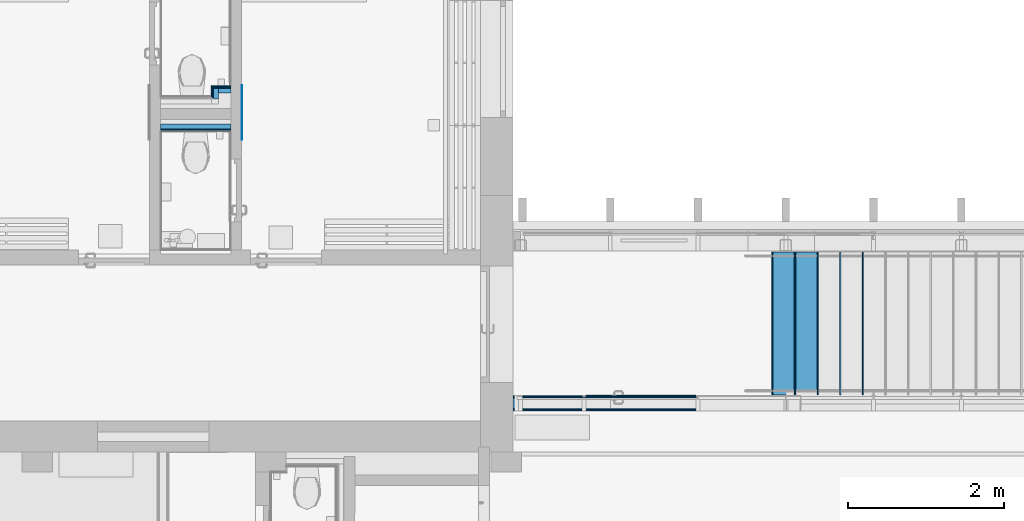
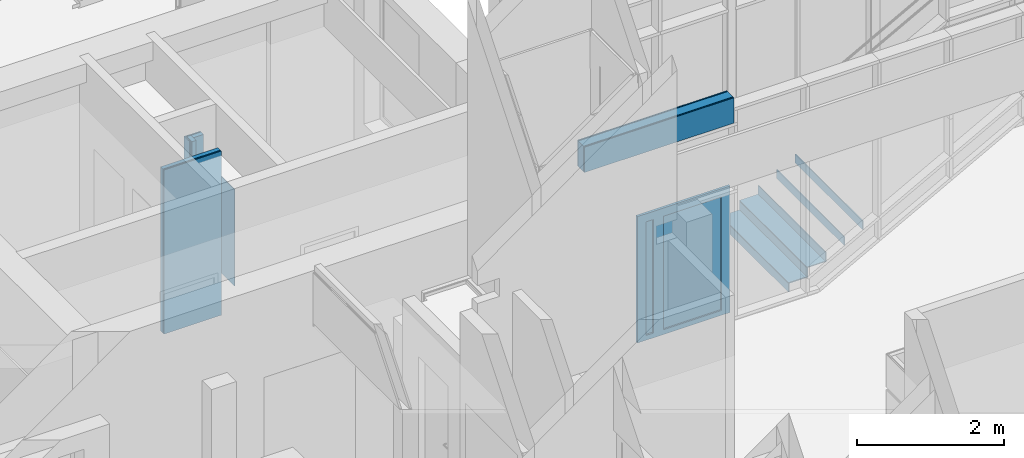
# One storey, part 188 of 301: 23 building element parts, 1 discrete accessory, 7 elements without a shape of their own.
"""IFC2X3 building model written with IfcOpenShell, lengths in millimetres."""

from ifc_helpers import new_model, entity, si_unit, converted_unit, derived_unit, money_unit, direction, frame, origin_with_axes, place, context, subcontext, project, spatial, faceted_brep, material, type_object, element, aggregate, save


model = new_model("IFC2X3")

# Units and contexts
model_context = context("Model", 3, precision=0.01, world=origin_with_axes(), true_north=direction((0.0, 1.0)))
body_context = subcontext(model_context, "Body", "Model", "MODEL_VIEW")
ifc_project = project(units=[si_unit("LENGTHUNIT", "METRE", prefix="MILLI"), si_unit("AREAUNIT", "SQUARE_METRE"), si_unit("VOLUMEUNIT", "CUBIC_METRE"), converted_unit("PLANEANGLEUNIT", "DEGREE", entity("IfcPlaneAngleMeasure", 0.0174532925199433), si_unit("PLANEANGLEUNIT", "RADIAN"), dimensions=[0, 0, 0, 0, 0, 0, 0]), money_unit("EUR"), converted_unit("TIMEUNIT", "Year", entity("IfcTimeMeasure", 31557600.0), si_unit("TIMEUNIT", "SECOND"), dimensions=[0, 0, 1, 0, 0, 0, 0]), si_unit("MASSUNIT", "GRAM", prefix="KILO"), si_unit("THERMODYNAMICTEMPERATUREUNIT", "DEGREE_CELSIUS"), si_unit("LUMINOUSINTENSITYUNIT", "LUMEN"), si_unit("ENERGYUNIT", "JOULE", prefix="MEGA"), derived_unit("THERMALCONDUCTANCEUNIT", [(si_unit("POWERUNIT", "WATT"), 1), (si_unit("LENGTHUNIT", "METRE"), -1), (si_unit("THERMODYNAMICTEMPERATUREUNIT", "KELVIN"), -1)]), derived_unit("SPECIFICHEATCAPACITYUNIT", [(si_unit("ENERGYUNIT", "JOULE"), 1), (si_unit("MASSUNIT", "GRAM", prefix="KILO"), -1), (si_unit("THERMODYNAMICTEMPERATUREUNIT", "KELVIN"), -1)]), derived_unit("MASSDENSITYUNIT", [(si_unit("MASSUNIT", "GRAM", prefix="KILO"), 1), (si_unit("VOLUMEUNIT", "CUBIC_METRE"), -1)])], contexts=[model_context])

# Site, building, storey
site_placement = place(None, frame((0.0, 0.0, 8650.0), z_axis=(0.0, 0.0, 1.0), x_axis=(1.0, 0.0, 0.0)))
site = spatial("IfcSite", under=ifc_project, at=site_placement, Name="43301:001:0844", CompositionType="ELEMENT")
building_placement = place(site_placement, origin_with_axes())
building = spatial("IfcBuilding", under=site, at=building_placement, Name="Kuressaare Ametikooli tuulikute mehaanikute õppekorpus", CompositionType="ELEMENT")
storey_placement = place(building_placement, origin_with_axes())
storey = spatial("IfcBuildingStorey", under=building, at=storey_placement, Name="1.korrus", CompositionType="ELEMENT", Elevation=0.0)

# Discrete accessory
ifc_material_1 = material(Name="GENEERILINE - SISEMINE VOODER")
discrete_accessory_type = type_object("IfcDiscreteAccessoryType", Name="GENEERILINE - SISEMINE VOODER 10")
discrete_accessory_placement = place(storey_placement, frame((100177.7073934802, 30488.53918858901, 500.0), z_axis=(0.0, 0.0, 1.0), x_axis=(-2.083127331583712e-06, -0.9999999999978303, 0.0)))
element("IfcDiscreteAccessory", 1, at=discrete_accessory_placement, inside=storey, type_object=discrete_accessory_type, material=ifc_material_1, Name="P3", context=body_context, shape_type="Brep", body=[
    faceted_brep([(0.0, 0.0, 0.0), (699.9999999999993, 0.0, 0.0), (700.0000000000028, -10.00000000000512, 0.0), (0.0, -10.00000000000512, 0.0), (0.0, 0.0, 1600.0), (699.9999999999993, 0.0, 1600.0), (700.0000000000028, -10.00000000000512, 1600.0), (0.0, -10.00000000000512, 1600.0)], [[[0, 1, 2, 3]], [[4, 5, 1, 0]], [[2, 1, 5, 6]], [[3, 2, 6, 7]], [[4, 0, 3, 7]], [[7, 6, 5, 4]]]),
])

# Wall, building element parts
wall_type_1 = type_object("IfcWallType", Name="SS-2.4 92", PredefinedType="NOTDEFINED")
wall_1_placement = place(storey_placement, frame((99779.70592214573, 30477.97406825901, 0.0), z_axis=(0.0, 0.0, 1.0), x_axis=(-4.516199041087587e-07, -0.9999999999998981, 0.0)))
wall_1 = element("IfcWall", 2, at=wall_1_placement, inside=storey, type_object=wall_type_1, Name="Sisesein")
ifc_material_2 = material(Name="Air Space - Frame")
building_element_part_1_placement = place(wall_1_placement, origin_with_axes())
building_element_part_1 = element("IfcBuildingElementPart", 3, at=building_element_part_1_placement, material=ifc_material_2, Name="Air Space - Frame", context=body_context, shape_type="Brep", body=[
    faceted_brep([(25.99998825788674, 26.00000000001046, 2700.0), (166.2595207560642, 25.99999999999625, 2700.0), (166.3343319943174, 91.99999999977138, 2700.0), (25.99995845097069, 91.99999999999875, 2700.0), (166.2595207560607, 25.99999999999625, 0.0), (25.99998825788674, 26.00000000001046, 0.0), (166.3343319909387, 91.99999701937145, 0.0), (25.99995845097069, 91.99999999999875, 0.0)], [[[0, 1, 2, 3]], [[4, 1, 0, 5]], [[6, 2, 1, 4]], [[3, 2, 6, 7]], [[5, 0, 3, 7]], [[7, 6, 4, 5]]]),
])
ifc_material_3 = material(Name="Plywood")
building_element_part_2_placement = place(wall_1_placement, origin_with_axes())
building_element_part_2 = element("IfcBuildingElementPart", 4, at=building_element_part_2_placement, material=ifc_material_3, Name="Plywood", context=body_context, shape_type="Brep", body=[
    faceted_brep([(12.99999412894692, 13.00000000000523, 2700.0), (153.2447768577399, 13.00000000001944, 2700.0), (153.2595124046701, 26.00000000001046, 2700.0), (12.99998825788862, 26.00000000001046, 2700.0), (153.2447768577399, 13.00000000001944, 0.0), (12.99999412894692, 13.00000000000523, 0.0), (153.2595124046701, 26.00000000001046, 0.0), (12.99998825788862, 26.00000000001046, 0.0)], [[[0, 1, 2, 3]], [[4, 1, 0, 5]], [[6, 2, 1, 4]], [[3, 2, 6, 7]], [[5, 0, 3, 7]], [[7, 6, 4, 5]]]),
])
ifc_material_4 = material(Name="Plaster - Gypsum")
building_element_part_3_placement = place(wall_1_placement, origin_with_axes())
building_element_part_3 = element("IfcBuildingElementPart", 5, at=building_element_part_3_placement, material=ifc_material_4, Name="Plaster - Gypsum", context=body_context, shape_type="Brep", body=[
    faceted_brep([(0.01473554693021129, 13.00000000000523, 2600.0), (0.01473554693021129, 13.00000000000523, 2650.0), (-5.871058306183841e-06, 13.00000000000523, 2650.0), (-5.871058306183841e-06, 13.00000000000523, 2700.0), (140.2447685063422, 13.00000000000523, 2700.0), (140.2447685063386, 13.00000000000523, 0.0), (-5.871058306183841e-06, 13.00000000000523, 0.0), (-5.871058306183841e-06, 13.00000000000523, 2600.0), (0.0001801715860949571, 0.158951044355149, 2600.0), (0.0001801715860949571, 0.158951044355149, 2650.0), (0.0, 0.0, 2650.0), (0.0, 0.0, 2700.0), (140.2300329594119, 0.0, 2700.0), (140.2300329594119, 0.0, 2650.0), (140.2300329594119, 0.0, 2600.0), (140.2300329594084, 0.0, 0.0), (0.0, 0.0, 0.0), (0.0, 0.0, 2600.0)], [[[0, 1, 2, 3, 4, 5, 6, 7]], [[1, 0, 8, 9]], [[9, 2, 1]], [[9, 10, 11, 3, 2]], [[11, 12, 4, 3]], [[13, 14, 15, 5, 4, 12]], [[6, 5, 15, 16]], [[8, 7, 6, 16, 17]], [[0, 7, 8]], [[14, 13, 9, 8]], [[10, 9, 13]], [[10, 13, 12, 11]], [[14, 17, 16, 15]], [[8, 17, 14]]]),
])
aggregate(wall_1, [building_element_part_1, building_element_part_2, building_element_part_3])

wall_2_placement = place(storey_placement, frame((100027.7066643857, 30477.97406825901, 0.0), z_axis=(0.0, 0.0, 1.0), x_axis=(-1.0, 0.0, 0.0)))
wall_2 = element("IfcWall", 6, at=wall_2_placement, inside=storey, type_object=wall_type_1, Name="Sisesein")
building_element_part_4_placement = place(wall_2_placement, origin_with_axes())
building_element_part_4 = element("IfcBuildingElementPart", 7, at=building_element_part_4_placement, material=ifc_material_2, Name="Air Space - Frame", context=body_context, shape_type="Brep", body=[
    faceted_brep([(156.000783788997, 91.99999999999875, 2700.0), (0.0, 91.99999999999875, 2700.0), (0.0, 25.9999999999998, 2700.0), (156.0007539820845, 25.9999999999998, 2700.0), (0.0, 91.99999999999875, 0.0), (156.000783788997, 91.99999999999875, 0.0), (0.0, 25.9999999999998, 0.0), (156.0007539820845, 25.9999999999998, 0.0)], [[[0, 1, 2, 3]], [[4, 1, 0, 5]], [[6, 2, 1, 4]], [[3, 2, 6, 7]], [[5, 0, 3, 7]], [[7, 6, 4, 5]]]),
])
building_element_part_5_placement = place(wall_2_placement, origin_with_axes())
building_element_part_5 = element("IfcBuildingElementPart", 8, at=building_element_part_5_placement, material=ifc_material_3, Name="Plywood", context=body_context, shape_type="Brep", body=[
    faceted_brep([(222.000753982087, 25.9999999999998, 2700.0), (0.0, 25.9999999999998, 2700.0), (0.0, 13.00000000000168, 2700.0), (222.0007481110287, 13.00000000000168, 2700.0), (0.0, 25.9999999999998, 0.0), (222.000753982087, 25.9999999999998, 0.0), (0.0, 13.00000000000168, 0.0), (222.0007481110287, 13.00000000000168, 0.0)], [[[0, 1, 2, 3]], [[4, 1, 0, 5]], [[6, 2, 1, 4]], [[3, 2, 6, 7]], [[5, 0, 3, 7]], [[7, 6, 4, 5]]]),
])
building_element_part_6_placement = place(wall_2_placement, origin_with_axes())
building_element_part_6 = element("IfcBuildingElementPart", 9, at=building_element_part_6_placement, material=ifc_material_4, Name="Plaster - Gypsum", context=body_context, shape_type="Brep", body=[
    faceted_brep([(0.0, 0.2812217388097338, 2600.0), (0.0, 0.2812217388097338, 2650.0), (0.0, 0.0, 2650.0), (0.0, 0.0, 2700.0), (0.0, 13.00000000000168, 2700.0), (0.0, 13.00000000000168, 0.0), (0.0, 0.0, 0.0), (0.0, 0.0, 2600.0), (235.000742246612, 0.01474141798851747, 2600.0), (235.000742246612, 0.01474141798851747, 2650.0), (235.0007422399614, 0.0, 2650.0), (235.0007422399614, 0.0, 2700.0), (235.0007481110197, 13.00000000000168, 2700.0), (235.0007481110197, 13.00000000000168, 0.0), (235.0007422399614, 0.0, 0.0), (235.0007422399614, 0.0, 2600.0)], [[[0, 1, 2, 3, 4, 5, 6, 7]], [[1, 0, 8, 9]], [[10, 2, 1, 9]], [[2, 10, 11, 3]], [[12, 4, 3, 11]], [[5, 4, 12, 13]], [[14, 6, 5, 13]], [[15, 7, 6, 14]], [[0, 7, 15, 8]], [[8, 15, 14, 13, 12, 11, 10, 9]]]),
])
aggregate(wall_2, [building_element_part_4, building_element_part_5, building_element_part_6])

# Curtain wall, door, building element parts
curtain_wall_type = type_object("IfcCurtainWallType", Name="Curtain Wall Type", PredefinedType="NOTDEFINED")
curtain_wall_placement = place(storey_placement, frame((105155.4360221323, 26479.57374875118, 34.99996632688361), z_axis=(0.0, 0.0, 1.0), x_axis=(1.0, 0.0, 0.0)))
curtain_wall = element("IfcCurtainWall", 10, at=curtain_wall_placement, inside=storey, type_object=curtain_wall_type, Name="SKF-1.1,EI60")
door_style = type_object("IfcDoorStyle", Name="330 x 2095 x 40", ConstructionType="NOTDEFINED", OperationType="DOUBLE_DOOR_SINGLE_SWING", ParameterTakesPrecedence=False, Sizeable=False)
door_placement = place(curtain_wall_placement, frame((0.0, 0.0, 1050.189654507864), z_axis=(0.0, 0.0, 1.0), x_axis=(-1.0, 0.0, 0.0)))
door = element("IfcDoor", 11, at=door_placement, type_object=door_style, Name="AU10+3,EI30", OverallHeight=2075.38, OverallWidth=1410.0)
aggregate(curtain_wall, [door])
ifc_material_5 = material(Name="Klaas")
building_element_part_7_placement = place(door_placement, origin_with_axes())
building_element_part_7 = element("IfcBuildingElementPart", 12, at=building_element_part_7_placement, material=ifc_material_5, Name="Klaas", context=body_context, shape_type="Brep", body=[
    faceted_brep([(458.3333206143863, -19.99999999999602, -970.1896545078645), (343.3333206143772, -19.99999999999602, -970.1896545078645), (343.3333206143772, -3.999999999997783, -970.1896545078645), (458.3333206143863, -3.999999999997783, -970.1896545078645), (458.3333206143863, -19.99999999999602, 910.1896547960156), (343.3333206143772, -19.99999999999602, 910.1896547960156), (343.3333206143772, -3.999999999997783, 910.1896547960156), (458.3333206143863, -3.999999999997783, 910.1896547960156)], [[[0, 1, 2, 3]], [[0, 4, 5, 1]], [[1, 5, 6, 2]], [[3, 2, 6, 7]], [[4, 0, 3, 7]], [[5, 4, 7, 6]]]),
    faceted_brep([(183.3333206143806, -19.99999999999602, -970.1896545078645), (-721.666663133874, -19.99999999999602, -970.1896545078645), (-721.666663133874, -3.999999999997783, -970.1896545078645), (183.3333206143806, -3.999999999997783, -970.1896545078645), (183.3333206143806, -19.99999999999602, 910.1896547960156), (-721.666663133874, -19.99999999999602, 910.1896547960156), (-721.666663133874, -3.999999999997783, 910.1896547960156), (183.3333206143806, -3.999999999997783, 910.1896547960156)], [[[0, 1, 2, 3]], [[0, 4, 5, 1]], [[1, 5, 6, 2]], [[3, 2, 6, 7]], [[4, 0, 3, 7]], [[5, 4, 7, 6]]]),
])
ifc_material_6 = material(Name="Aluminium")
building_element_part_8_placement = place(door_placement, origin_with_axes())
building_element_part_8 = element("IfcBuildingElementPart", 13, at=building_element_part_8_placement, material=ifc_material_6, Name="Aluminium", context=body_context, shape_type="Brep", body=[
    faceted_brep([(-836.6666631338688, -29.99999999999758, -1050.189654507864), (-836.6666631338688, -34.99999999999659, -1050.189654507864), (-836.6666631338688, -34.99999999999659, 1025.189654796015), (-836.6666631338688, -29.99999999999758, 1025.189654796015), (-791.6666631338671, -29.99999999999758, -1050.189654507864), (-791.6666631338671, -34.99999999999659, -1050.189654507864), (-791.6666631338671, -34.99999999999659, 980.1896547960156), (-791.6666631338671, -29.99999999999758, 980.1896547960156)], [[[0, 1, 2, 3]], [[4, 5, 1, 0]], [[1, 5, 6, 2]], [[3, 2, 6, 7]], [[0, 3, 7, 4]], [[7, 6, 5, 4]]]),
    faceted_brep([(573.3333206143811, -29.99999999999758, 1025.189654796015), (573.3333206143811, -34.99999999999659, 1025.189654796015), (528.3333206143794, -34.99999999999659, 980.1896547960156), (528.3333206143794, -29.99999999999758, 980.1896547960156), (-836.6666631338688, -29.99999999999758, 1025.189654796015), (-836.6666631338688, -34.99999999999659, 1025.189654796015), (-791.6666631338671, -34.99999999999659, 980.1896547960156), (-791.6666631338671, -29.99999999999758, 980.1896547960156)], [[[0, 1, 2, 3]], [[4, 5, 1, 0]], [[1, 5, 6, 2]], [[3, 2, 6, 7]], [[0, 3, 7, 4]], [[7, 6, 5, 4]]]),
    faceted_brep([(573.3333206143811, -29.99999999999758, -1050.189654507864), (573.3333206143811, -34.99999999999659, -1050.189654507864), (528.3333206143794, -34.99999999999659, -1050.189654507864), (528.3333206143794, -29.99999999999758, -1050.189654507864), (573.3333206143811, -29.99999999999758, 1025.189654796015), (573.3333206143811, -34.99999999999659, 1025.189654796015), (528.3333206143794, -34.99999999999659, 980.1896547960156), (528.3333206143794, -29.99999999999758, 980.1896547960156)], [[[0, 1, 2, 3]], [[4, 5, 1, 0]], [[1, 5, 6, 2]], [[3, 2, 6, 7]], [[0, 3, 7, 4]], [[7, 6, 5, 4]]]),
    faceted_brep([(-836.6666631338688, 20.00000000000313, -1050.189654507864), (-836.6666631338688, -29.99999999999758, -1050.189654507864), (-836.6666631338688, -29.99999999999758, 1025.189654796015), (-836.6666631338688, 20.00000000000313, 1025.189654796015), (-801.6666631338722, 20.00000000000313, -1050.189654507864), (-801.6666631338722, -29.99999999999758, -1050.189654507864), (-801.6666631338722, -29.99999999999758, 990.1896547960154), (-801.6666631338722, 20.00000000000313, 990.1896547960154)], [[[0, 1, 2, 3]], [[4, 5, 1, 0]], [[1, 5, 6, 2]], [[3, 2, 6, 7]], [[0, 3, 7, 4]], [[7, 6, 5, 4]]]),
    faceted_brep([(573.3333206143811, 20.00000000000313, 1025.189654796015), (573.3333206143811, -29.99999999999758, 1025.189654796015), (538.3333206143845, -29.99999999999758, 990.1896547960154), (538.3333206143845, 20.00000000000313, 990.1896547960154), (-836.6666631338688, 20.00000000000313, 1025.189654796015), (-836.6666631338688, -29.99999999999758, 1025.189654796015), (-801.6666631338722, -29.99999999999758, 990.1896547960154), (-801.6666631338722, 20.00000000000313, 990.1896547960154)], [[[0, 1, 2, 3]], [[4, 5, 1, 0]], [[1, 5, 6, 2]], [[3, 2, 6, 7]], [[0, 3, 7, 4]], [[7, 6, 5, 4]]]),
    faceted_brep([(573.3333206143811, 20.00000000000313, -1050.189654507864), (573.3333206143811, -29.99999999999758, -1050.189654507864), (538.3333206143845, -29.99999999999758, -1050.189654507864), (538.3333206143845, 20.00000000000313, -1050.189654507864), (573.3333206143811, 20.00000000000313, 1025.189654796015), (573.3333206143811, -29.99999999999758, 1025.189654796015), (538.3333206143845, -29.99999999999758, 990.1896547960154), (538.3333206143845, 20.00000000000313, 990.1896547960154)], [[[0, 1, 2, 3]], [[4, 5, 1, 0]], [[1, 5, 6, 2]], [[3, 2, 6, 7]], [[0, 3, 7, 4]], [[7, 6, 5, 4]]]),
    faceted_brep([(-856.6666629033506, 20.00000000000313, -1050.189654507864), (-856.6666629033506, -19.99999999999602, -1050.189654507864), (-856.6666629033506, -19.99999999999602, 1045.189654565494), (-856.6666629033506, 20.00000000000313, 1045.189654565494), (-836.6666631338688, 20.00000000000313, -1050.189654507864), (-836.6666631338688, -19.99999999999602, -1050.189654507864), (-836.6666631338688, -19.99999999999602, 1025.189654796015), (-836.6666631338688, 20.00000000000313, 1025.189654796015)], [[[0, 1, 2, 3]], [[4, 5, 1, 0]], [[1, 5, 6, 2]], [[3, 2, 6, 7]], [[0, 3, 7, 4]], [[7, 6, 5, 4]]]),
    faceted_brep([(-856.6666629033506, 20.00000000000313, 1045.189654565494), (-856.6666629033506, -19.99999999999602, 1045.189654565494), (593.3333203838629, -19.99999999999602, 1045.189654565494), (593.3333203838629, 20.00000000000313, 1045.189654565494), (-836.6666631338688, 20.00000000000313, 1025.189654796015), (-836.6666631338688, -19.99999999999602, 1025.189654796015), (573.3333206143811, -19.99999999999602, 1025.189654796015), (573.3333206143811, 20.00000000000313, 1025.189654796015)], [[[0, 1, 2, 3]], [[4, 5, 1, 0]], [[1, 5, 6, 2]], [[3, 2, 6, 7]], [[0, 3, 7, 4]], [[7, 6, 5, 4]]]),
    faceted_brep([(593.3333203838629, 20.00000000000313, 1045.189654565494), (593.3333203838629, -19.99999999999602, 1045.189654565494), (593.3333203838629, -19.99999999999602, -1050.189654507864), (593.3333203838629, 20.00000000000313, -1050.189654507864), (573.3333206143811, 20.00000000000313, 1025.189654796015), (573.3333206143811, -19.99999999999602, 1025.189654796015), (573.3333206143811, -19.99999999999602, -1050.189654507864), (573.3333206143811, 20.00000000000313, -1050.189654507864)], [[[0, 1, 2, 3]], [[4, 5, 1, 0]], [[1, 5, 6, 2]], [[3, 2, 6, 7]], [[0, 3, 7, 4]], [[7, 6, 5, 4]]]),
    faceted_brep([(458.3333206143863, -29.99999999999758, -970.1896545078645), (458.3333206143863, -29.99999999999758, 910.1896547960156), (458.3333206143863, 20.00000000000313, 910.1896547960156), (458.3333206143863, 20.00000000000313, -970.1896545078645), (538.3333206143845, -29.99999999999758, -1050.189654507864), (538.3333206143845, -29.99999999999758, 990.1896547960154), (538.3333206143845, 20.00000000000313, 990.1896547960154), (538.3333206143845, 20.00000000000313, -1050.189654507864)], [[[0, 1, 2, 3]], [[0, 4, 5, 1]], [[1, 5, 6, 2]], [[3, 2, 6, 7]], [[4, 0, 3, 7]], [[5, 4, 7, 6]]]),
    faceted_brep([(263.3333206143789, -29.99999999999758, -1050.189654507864), (263.3333206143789, -29.99999999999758, 990.1896547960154), (263.3333206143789, 20.00000000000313, 990.1896547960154), (263.3333206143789, 20.00000000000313, -1050.189654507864), (343.3333206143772, -29.99999999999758, -970.1896545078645), (343.3333206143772, -29.99999999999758, 910.1896547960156), (343.3333206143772, 20.00000000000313, 910.1896547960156), (343.3333206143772, 20.00000000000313, -970.1896545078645)], [[[0, 1, 2, 3]], [[0, 4, 5, 1]], [[1, 5, 6, 2]], [[3, 2, 6, 7]], [[4, 0, 3, 7]], [[5, 4, 7, 6]]]),
    faceted_brep([(263.3333206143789, -29.99999999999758, -1050.189654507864), (343.3333206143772, -29.99999999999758, -970.1896545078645), (343.3333206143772, 20.00000000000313, -970.1896545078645), (263.3333206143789, 20.00000000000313, -1050.189654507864), (538.3333206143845, -29.99999999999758, -1050.189654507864), (458.3333206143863, -29.99999999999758, -970.1896545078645), (458.3333206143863, 20.00000000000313, -970.1896545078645), (538.3333206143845, 20.00000000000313, -1050.189654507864)], [[[0, 1, 2, 3]], [[0, 4, 5, 1]], [[1, 5, 6, 2]], [[3, 2, 6, 7]], [[4, 0, 3, 7]], [[5, 4, 7, 6]]]),
    faceted_brep([(538.3333206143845, -29.99999999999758, 990.1896547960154), (458.3333206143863, -29.99999999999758, 910.1896547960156), (458.3333206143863, 20.00000000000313, 910.1896547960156), (538.3333206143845, 20.00000000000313, 990.1896547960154), (263.3333206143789, -29.99999999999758, 990.1896547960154), (343.3333206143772, -29.99999999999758, 910.1896547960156), (343.3333206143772, 20.00000000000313, 910.1896547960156), (263.3333206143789, 20.00000000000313, 990.1896547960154)], [[[0, 1, 2, 3]], [[0, 4, 5, 1]], [[1, 5, 6, 2]], [[3, 2, 6, 7]], [[4, 0, 3, 7]], [[5, 4, 7, 6]]]),
    faceted_brep([(183.3333206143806, -29.99999999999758, -970.1896545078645), (183.3333206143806, -29.99999999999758, 910.1896547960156), (183.3333206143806, 20.00000000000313, 910.1896547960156), (183.3333206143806, 20.00000000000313, -970.1896545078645), (263.3333206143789, -29.99999999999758, -1050.189654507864), (263.3333206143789, -29.99999999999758, 990.1896547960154), (263.3333206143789, 20.00000000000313, 990.1896547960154), (263.3333206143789, 20.00000000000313, -1050.189654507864)], [[[0, 1, 2, 3]], [[0, 4, 5, 1]], [[1, 5, 6, 2]], [[3, 2, 6, 7]], [[4, 0, 3, 7]], [[5, 4, 7, 6]]]),
    faceted_brep([(-801.6666631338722, -29.99999999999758, -1050.189654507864), (-801.6666631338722, -29.99999999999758, 990.1896547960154), (-801.6666631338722, 20.00000000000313, 990.1896547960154), (-801.6666631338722, 20.00000000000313, -1050.189654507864), (-721.666663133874, -29.99999999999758, -970.1896545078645), (-721.666663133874, -29.99999999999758, 910.1896547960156), (-721.666663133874, 20.00000000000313, 910.1896547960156), (-721.666663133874, 20.00000000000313, -970.1896545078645)], [[[0, 1, 2, 3]], [[0, 4, 5, 1]], [[1, 5, 6, 2]], [[3, 2, 6, 7]], [[4, 0, 3, 7]], [[5, 4, 7, 6]]]),
    faceted_brep([(-801.6666631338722, -29.99999999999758, -1050.189654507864), (-721.666663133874, -29.99999999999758, -970.1896545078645), (-721.666663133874, 20.00000000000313, -970.1896545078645), (-801.6666631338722, 20.00000000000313, -1050.189654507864), (263.3333206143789, -29.99999999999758, -1050.189654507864), (183.3333206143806, -29.99999999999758, -970.1896545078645), (183.3333206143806, 20.00000000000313, -970.1896545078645), (263.3333206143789, 20.00000000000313, -1050.189654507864)], [[[0, 1, 2, 3]], [[0, 4, 5, 1]], [[1, 5, 6, 2]], [[3, 2, 6, 7]], [[4, 0, 3, 7]], [[5, 4, 7, 6]]]),
    faceted_brep([(263.3333206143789, -29.99999999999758, 990.1896547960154), (183.3333206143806, -29.99999999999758, 910.1896547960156), (183.3333206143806, 20.00000000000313, 910.1896547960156), (263.3333206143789, 20.00000000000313, 990.1896547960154), (-801.6666631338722, -29.99999999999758, 990.1896547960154), (-721.666663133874, -29.99999999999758, 910.1896547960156), (-721.666663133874, 20.00000000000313, 910.1896547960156), (-801.6666631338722, 20.00000000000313, 990.1896547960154)], [[[0, 1, 2, 3]], [[0, 4, 5, 1]], [[1, 5, 6, 2]], [[3, 2, 6, 7]], [[4, 0, 3, 7]], [[5, 4, 7, 6]]]),
])
aggregate(door, [building_element_part_7, building_element_part_8])

# Wall, building element parts
wall_3_placement = place(storey_placement, frame((100027.7059182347, 29898.48198919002, 0.0), z_axis=(0.0, 0.0, 1.0), x_axis=(-0.99999999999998, -1.999962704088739e-07, 0.0)))
wall_3 = element("IfcWall", 14, at=wall_3_placement, inside=storey, type_object=wall_type_1, Name="Sisesein")
building_element_part_9_placement = place(wall_3_placement, origin_with_axes())
building_element_part_9 = element("IfcBuildingElementPart", 15, at=building_element_part_9_placement, material=ifc_material_4, Name="Plaster - Gypsum", context=body_context, shape_type="Brep", body=[
    faceted_brep([(899.9999999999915, -13.00000000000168, 2719.999999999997), (899.9999999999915, 0.0, 2719.999999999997), (-0.0007461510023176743, 0.0, 2719.999999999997), (-0.0007487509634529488, -13.00000000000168, 2719.999999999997), (899.9999999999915, -13.00000000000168, 0.0), (899.9999999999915, 0.0, 0.0), (-0.0007461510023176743, 0.0, 0.0), (-0.0007487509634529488, -13.00000000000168, 0.0)], [[[0, 1, 2, 3]], [[0, 4, 5, 1]], [[1, 5, 6, 2]], [[3, 2, 6, 7]], [[4, 0, 3, 7]], [[5, 4, 7, 6]]]),
])
building_element_part_10_placement = place(wall_3_placement, origin_with_axes())
building_element_part_10 = element("IfcBuildingElementPart", 16, at=building_element_part_10_placement, material=ifc_material_2, Name="Air Space - Frame", context=body_context, shape_type="Brep", body=[
    faceted_brep([(899.9999999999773, -91.99999999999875, 2719.999999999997), (899.9999999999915, -25.9999999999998, 2719.999999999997), (-0.0007513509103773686, -26.00000000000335, 2719.999999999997), (-0.0007645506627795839, -91.99999999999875, 2719.999999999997), (899.9999999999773, -91.99999999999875, 0.0), (899.9999999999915, -25.9999999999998, 0.0), (-0.0007513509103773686, -26.00000000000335, 0.0), (-0.0007645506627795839, -91.99999999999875, 0.0)], [[[0, 1, 2, 3]], [[0, 4, 5, 1]], [[1, 5, 6, 2]], [[3, 2, 6, 7]], [[4, 0, 3, 7]], [[5, 4, 7, 6]]]),
])
building_element_part_11_placement = place(wall_3_placement, origin_with_axes())
building_element_part_11 = element("IfcBuildingElementPart", 17, at=building_element_part_11_placement, material=ifc_material_3, Name="Plywood", context=body_context, shape_type="Brep", body=[
    faceted_brep([(899.9999999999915, -25.9999999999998, 2719.999999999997), (899.9999999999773, -13.00000000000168, 2719.999999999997), (-0.0007487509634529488, -13.00000000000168, 2719.999999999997), (-0.0007513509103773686, -26.00000000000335, 2719.999999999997), (899.9999999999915, -25.9999999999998, 0.0), (899.9999999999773, -13.00000000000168, 0.0), (-0.0007487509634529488, -13.00000000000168, 0.0), (-0.0007513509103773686, -26.00000000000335, 0.0)], [[[0, 1, 2, 3]], [[0, 4, 5, 1]], [[1, 5, 6, 2]], [[3, 2, 6, 7]], [[4, 0, 3, 7]], [[5, 4, 7, 6]]]),
])
aggregate(wall_3, [building_element_part_9, building_element_part_10, building_element_part_11])

# Stair, building element parts
stair_placement = place(storey_placement, frame((106962.1026822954, 28349.57374875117, 5.294881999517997e-05), z_axis=(0.0, 0.0, 1.0), x_axis=(1.0, 0.0, 0.0)))
stair = element("IfcStair", 18, at=stair_placement, inside=storey, Name="Trepp1", ShapeType="NOTDEFINED")
ifc_material_7 = material(Name="GENEERILINE - SISEMINE VIIMISTLUS")
building_element_part_12_placement = place(stair_placement, origin_with_axes())
building_element_part_12 = element("IfcBuildingElementPart", 19, at=building_element_part_12_placement, material=ifc_material_7, Name="GENEERILINE - SISEMINE VIIMISTLUS", context=body_context, shape_type="Brep", body=[
    faceted_brep([(0.0, -1829.999999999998, 142.6923076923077), (15.00000000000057, -1829.999999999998, 142.6923076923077), (15.00000000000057, 0.0, 142.6923076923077), (0.0, 0.0, 142.6923076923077), (0.0, -1829.999999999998, 0.0), (15.00000000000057, -1829.999999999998, 0.0), (15.00000000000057, 0.0, 0.0), (0.0, 0.0, 0.0)], [[[0, 1, 2, 3]], [[0, 4, 5, 1]], [[1, 5, 6, 2]], [[3, 2, 6, 7]], [[4, 0, 3, 7]], [[5, 4, 7, 6]]]),
])
building_element_part_13_placement = place(stair_placement, origin_with_axes())
building_element_part_13 = element("IfcBuildingElementPart", 20, at=building_element_part_13_placement, material=ifc_material_7, Name="GENEERILINE - SISEMINE VIIMISTLUS", context=body_context, shape_type="Brep", body=[
    faceted_brep([(290.0000000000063, -1829.999999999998, 300.3846153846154), (305.0000000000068, -1829.999999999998, 300.3846153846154), (305.0000000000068, 0.0, 300.3846153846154), (290.0000000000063, 0.0, 300.3846153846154), (290.0000000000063, -1829.999999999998, 157.6923076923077), (305.0000000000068, -1829.999999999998, 157.6923076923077), (305.0000000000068, 0.0, 157.6923076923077), (290.0000000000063, 0.0, 157.6923076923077)], [[[0, 1, 2, 3]], [[0, 4, 5, 1]], [[1, 5, 6, 2]], [[3, 2, 6, 7]], [[4, 0, 3, 7]], [[5, 4, 7, 6]]]),
])
building_element_part_14_placement = place(stair_placement, origin_with_axes())
building_element_part_14 = element("IfcBuildingElementPart", 21, at=building_element_part_14_placement, material=ifc_material_7, Name="GENEERILINE - SISEMINE VIIMISTLUS", context=body_context, shape_type="Brep", body=[
    faceted_brep([(579.9999999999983, -1829.999999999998, 458.076923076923), (594.9999999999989, -1829.999999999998, 458.076923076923), (594.9999999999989, 0.0, 458.076923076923), (579.9999999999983, 0.0, 458.076923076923), (579.9999999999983, -1829.999999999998, 315.3846153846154), (594.9999999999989, -1829.999999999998, 315.3846153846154), (594.9999999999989, 0.0, 315.3846153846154), (579.9999999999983, 0.0, 315.3846153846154)], [[[0, 1, 2, 3]], [[0, 4, 5, 1]], [[1, 5, 6, 2]], [[3, 2, 6, 7]], [[4, 0, 3, 7]], [[5, 4, 7, 6]]]),
])
building_element_part_15_placement = place(stair_placement, origin_with_axes())
building_element_part_15 = element("IfcBuildingElementPart", 22, at=building_element_part_15_placement, material=ifc_material_7, Name="GENEERILINE - SISEMINE VIIMISTLUS", context=body_context, shape_type="Brep", body=[
    faceted_brep([(870.0000000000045, -1829.999999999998, 615.7692307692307), (885.0000000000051, -1829.999999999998, 615.7692307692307), (885.0000000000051, 0.0, 615.7692307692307), (870.0000000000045, 0.0, 615.7692307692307), (870.0000000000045, -1829.999999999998, 473.076923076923), (885.0000000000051, -1829.999999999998, 473.076923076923), (885.0000000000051, 0.0, 473.076923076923), (870.0000000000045, 0.0, 473.076923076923)], [[[0, 1, 2, 3]], [[0, 4, 5, 1]], [[1, 5, 6, 2]], [[3, 2, 6, 7]], [[4, 0, 3, 7]], [[5, 4, 7, 6]]]),
])
building_element_part_16_placement = place(stair_placement, origin_with_axes())
building_element_part_16 = element("IfcBuildingElementPart", 23, at=building_element_part_16_placement, material=ifc_material_7, Name="GENEERILINE - SISEMINE VIIMISTLUS", context=body_context, shape_type="Brep", body=[
    faceted_brep([(1159.999999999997, -1829.999999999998, 773.4615384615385), (1174.999999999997, -1829.999999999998, 773.4615384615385), (1174.999999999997, 0.0, 773.4615384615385), (1159.999999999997, 0.0, 773.4615384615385), (1159.999999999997, -1829.999999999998, 630.7692307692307), (1174.999999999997, -1829.999999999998, 630.7692307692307), (1174.999999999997, 0.0, 630.7692307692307), (1159.999999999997, 0.0, 630.7692307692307)], [[[0, 1, 2, 3]], [[0, 4, 5, 1]], [[1, 5, 6, 2]], [[3, 2, 6, 7]], [[4, 0, 3, 7]], [[5, 4, 7, 6]]]),
])
building_element_part_17_placement = place(stair_placement, origin_with_axes())
building_element_part_17 = element("IfcBuildingElementPart", 24, at=building_element_part_17_placement, material=ifc_material_7, Name="GENEERILINE - SISEMINE VIIMISTLUS", context=body_context, shape_type="Brep", body=[
    faceted_brep([(0.0, 0.0, 142.6923076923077), (0.0, -1829.999999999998, 142.6923076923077), (0.0, -1829.999999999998, 157.6923076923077), (0.0, 0.0, 157.6923076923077), (305.0000000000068, 0.0, 142.6923076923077), (305.0000000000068, -1829.999999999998, 142.6923076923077), (305.0000000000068, -1829.999999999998, 157.6923076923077), (305.0000000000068, 0.0, 157.6923076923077)], [[[0, 1, 2, 3]], [[0, 4, 5, 1]], [[1, 5, 6, 2]], [[3, 2, 6, 7]], [[4, 0, 3, 7]], [[5, 4, 7, 6]]]),
])
building_element_part_18_placement = place(stair_placement, origin_with_axes())
building_element_part_18 = element("IfcBuildingElementPart", 25, at=building_element_part_18_placement, material=ifc_material_7, Name="GENEERILINE - SISEMINE VIIMISTLUS", context=body_context, shape_type="Brep", body=[
    faceted_brep([(290.0000000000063, 0.0, 300.3846153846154), (290.0000000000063, -1829.999999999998, 300.3846153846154), (290.0000000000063, -1829.999999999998, 315.3846153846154), (290.0000000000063, 0.0, 315.3846153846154), (595.0000000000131, 0.0, 300.3846153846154), (595.0000000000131, -1829.999999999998, 300.3846153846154), (595.0000000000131, -1829.999999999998, 315.3846153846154), (595.0000000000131, 0.0, 315.3846153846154)], [[[0, 1, 2, 3]], [[0, 4, 5, 1]], [[1, 5, 6, 2]], [[3, 2, 6, 7]], [[4, 0, 3, 7]], [[5, 4, 7, 6]]]),
])
aggregate(stair, [building_element_part_12, building_element_part_13, building_element_part_14, building_element_part_15, building_element_part_16, building_element_part_17, building_element_part_18])

# Wall, building element parts
wall_type_2 = type_object("IfcWallType", Name="SS-2.1.1 197", PredefinedType="NOTDEFINED")
wall_4_placement = place(storey_placement, frame((105992.1026822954, 26509.57374875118, 3269.999912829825), z_axis=(0.0, 0.0, 1.0), x_axis=(-1.0, 0.0, 0.0)))
wall_4 = element("IfcWall", 26, at=wall_4_placement, inside=storey, type_object=wall_type_2, Name="Sisesein")
ifc_material_8 = material(Name="Kipsplaat")
building_element_part_19_placement = place(wall_4_placement, origin_with_axes())
building_element_part_19 = element("IfcBuildingElementPart", 27, at=building_element_part_19_placement, material=ifc_material_8, Name="Kipsplaat", context=body_context, shape_type="Brep", body=[
    faceted_brep([(2344.59047526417, 183.9999999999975, 420.0000871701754), (0.0, 184.0000000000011, 420.0000871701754), (0.0, 184.0000000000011, 0.0), (2344.59047526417, 184.0000000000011, 0.0), (2344.59047526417, 196.9999999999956, 420.0000871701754), (0.0, 196.9999999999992, 420.0000871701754), (0.0, 196.9999999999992, 0.0), (2344.59047526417, 196.9999999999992, 0.0)], [[[0, 1, 2, 3]], [[0, 4, 5, 1]], [[6, 2, 1, 5]], [[7, 3, 2, 6]], [[4, 0, 3, 7]], [[4, 7, 6, 5]]]),
])
building_element_part_20_placement = place(wall_4_placement, origin_with_axes())
building_element_part_20 = element("IfcBuildingElementPart", 28, at=building_element_part_20_placement, material=ifc_material_8, Name="Kipsplaat", context=body_context, shape_type="Brep", body=[
    faceted_brep([(2344.59047526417, 170.9999999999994, 420.0000871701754), (0.0, 170.9999999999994, 420.0000871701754), (0.0, 170.9999999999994, 0.0), (2344.59047526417, 170.9999999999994, 0.0), (2344.59047526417, 184.0000000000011, 420.0000871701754), (0.0, 184.0000000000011, 420.0000871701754), (0.0, 184.0000000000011, 0.0), (2344.59047526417, 184.0000000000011, 0.0)], [[[0, 1, 2, 3]], [[0, 4, 5, 1]], [[6, 2, 1, 5]], [[7, 3, 2, 6]], [[4, 0, 3, 7]], [[4, 7, 6, 5]]]),
])
ifc_material_9 = material(Name="Soojustus - Mineraalvill pehme")
building_element_part_21_placement = place(wall_4_placement, origin_with_axes())
building_element_part_21 = element("IfcBuildingElementPart", 29, at=building_element_part_21_placement, material=ifc_material_9, Name="Soojustus - Mineraalvill pehme", context=body_context, shape_type="Brep", body=[
    faceted_brep([(2344.59047526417, 25.9999999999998, 420.0000871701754), (0.0, 25.9999999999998, 420.0000871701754), (0.0, 25.9999999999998, 0.0), (2344.59047526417, 25.9999999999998, 0.0), (2344.59047526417, 170.9999999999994, 420.0000871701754), (0.0, 170.9999999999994, 420.0000871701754), (0.0, 170.9999999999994, 0.0), (2344.59047526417, 170.9999999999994, 0.0)], [[[0, 1, 2, 3]], [[0, 4, 5, 1]], [[6, 2, 1, 5]], [[7, 3, 2, 6]], [[4, 0, 3, 7]], [[4, 7, 6, 5]]]),
])
building_element_part_22_placement = place(wall_4_placement, origin_with_axes())
building_element_part_22 = element("IfcBuildingElementPart", 30, at=building_element_part_22_placement, material=ifc_material_8, Name="Kipsplaat", context=body_context, shape_type="Brep", body=[
    faceted_brep([(2344.59047526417, 0.0, 420.0000871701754), (0.0, 0.0, 420.0000871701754), (0.0, 0.0, 0.0), (2344.59047526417, 0.0, 0.0), (2344.59047526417, 12.99999999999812, 420.0000871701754), (0.0, 13.00000000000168, 420.0000871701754), (0.0, 13.00000000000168, 0.0), (2344.59047526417, 12.99999999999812, 0.0)], [[[0, 1, 2, 3]], [[0, 4, 5, 1]], [[6, 2, 1, 5]], [[7, 3, 2, 6]], [[4, 0, 3, 7]], [[4, 7, 6, 5]]]),
])
building_element_part_23_placement = place(wall_4_placement, origin_with_axes())
building_element_part_23 = element("IfcBuildingElementPart", 31, at=building_element_part_23_placement, material=ifc_material_8, Name="Kipsplaat", context=body_context, shape_type="Brep", body=[
    faceted_brep([(2344.59047526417, 12.99999999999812, 420.0000871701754), (0.0, 13.00000000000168, 420.0000871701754), (0.0, 13.00000000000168, 0.0), (2344.59047526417, 12.99999999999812, 0.0), (2344.59047526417, 25.9999999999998, 420.0000871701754), (0.0, 25.9999999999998, 420.0000871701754), (0.0, 25.9999999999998, 0.0), (2344.59047526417, 25.9999999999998, 0.0)], [[[0, 1, 2, 3]], [[0, 4, 5, 1]], [[6, 2, 1, 5]], [[7, 3, 2, 6]], [[4, 0, 3, 7]], [[4, 7, 6, 5]]]),
])
aggregate(wall_4, [building_element_part_19, building_element_part_20, building_element_part_21, building_element_part_22, building_element_part_23])

save(model, "model.ifc")
